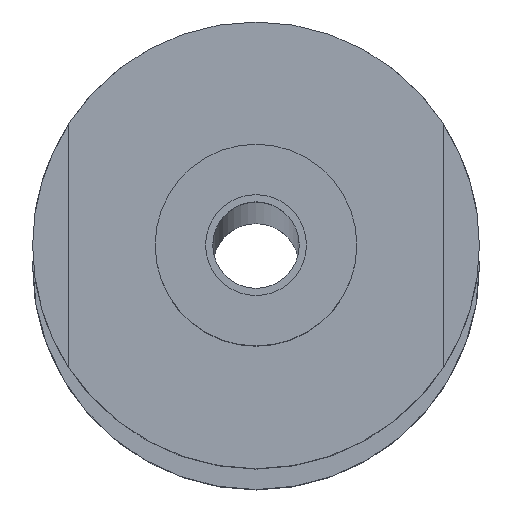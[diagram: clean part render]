
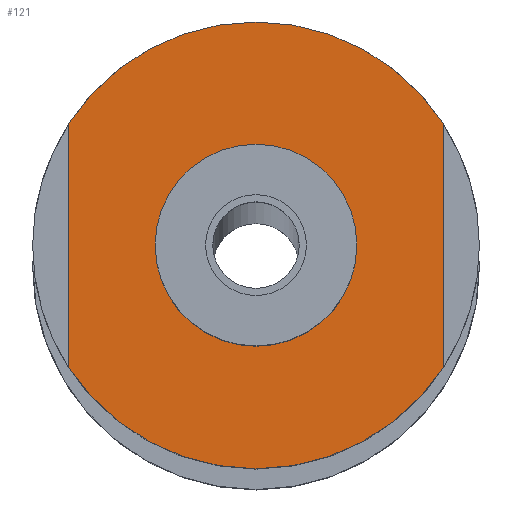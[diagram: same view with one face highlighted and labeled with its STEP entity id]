
A CAD part, top view. The second image highlights one B-rep face of the part: STEP entity #121.
In plain terms, the highlighted planar face has unit normal (0, 0, 1).
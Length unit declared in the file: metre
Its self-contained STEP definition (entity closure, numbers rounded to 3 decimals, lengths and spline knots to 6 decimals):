
#121=ADVANCED_FACE('37:1511',(#238,#239),#240,.T.);
#238=FACE_OUTER_BOUND('',#364,.T.);
#239=FACE_BOUND('',#365,.T.);
#240=PLANE('',#366);
#364=EDGE_LOOP('',(#596,#597,#598,#599,#600,#601));
#365=EDGE_LOOP('',(#602,#603));
#366=AXIS2_PLACEMENT_3D('',#604,#605,#606);
#596=ORIENTED_EDGE('',*,*,#761,.F.);
#597=ORIENTED_EDGE('',*,*,#760,.F.);
#598=ORIENTED_EDGE('',*,*,#756,.F.);
#599=ORIENTED_EDGE('',*,*,#688,.F.);
#600=ORIENTED_EDGE('',*,*,#687,.F.);
#601=ORIENTED_EDGE('',*,*,#751,.T.);
#602=ORIENTED_EDGE('',*,*,#748,.F.);
#603=ORIENTED_EDGE('',*,*,#695,.F.);
#604=CARTESIAN_POINT('',(0.0,0.0,3.205));
#605=DIRECTION('',(0.0,0.0,1.0));
#606=DIRECTION('',(1.0,0.0,0.0));
#687=EDGE_CURVE('37:1561',#812,#814,#815,.F.);
#688=EDGE_CURVE('37:1552',#814,#816,#817,.F.);
#695=EDGE_CURVE('',#827,#823,#829,.T.);
#748=EDGE_CURVE('37:1539',#823,#827,#906,.T.);
#751=EDGE_CURVE('37:3142',#812,#909,#910,.T.);
#756=EDGE_CURVE('37:2641',#816,#917,#918,.F.);
#760=EDGE_CURVE('37:1558',#917,#922,#923,.F.);
#761=EDGE_CURVE('37:1549',#922,#909,#924,.F.);
#812=VERTEX_POINT('',#1001);
#814=VERTEX_POINT('',#1004);
#815=CIRCLE('',#1005,0.0155);
#816=VERTEX_POINT('',#1006);
#817=CIRCLE('',#1007,0.0155);
#823=VERTEX_POINT('',#1014);
#827=VERTEX_POINT('',#1019);
#829=CIRCLE('',#1022,0.007);
#906=CIRCLE('',#1115,0.007);
#909=VERTEX_POINT('',#1118);
#910=LINE('',#1119,#1120);
#917=VERTEX_POINT('',#1130);
#918=LINE('',#1131,#1132);
#922=VERTEX_POINT('',#1137);
#923=CIRCLE('',#1138,0.0155);
#924=CIRCLE('',#1139,0.0155);
#1001=CARTESIAN_POINT('',(-0.013092,0.008536,3.205));
#1004=CARTESIAN_POINT('',(-0.000092,0.015595,3.205));
#1005=AXIS2_PLACEMENT_3D('',#1221,#1222,#1223);
#1006=CARTESIAN_POINT('',(0.012908,0.008536,3.205));
#1007=AXIS2_PLACEMENT_3D('',#1224,#1225,#1226);
#1014=CARTESIAN_POINT('',(-0.007092,0.000095,3.205));
#1019=CARTESIAN_POINT('',(0.006908,0.000095,3.205));
#1022=AXIS2_PLACEMENT_3D('',#1236,#1237,#1238);
#1115=AXIS2_PLACEMENT_3D('',#1315,#1316,#1317);
#1118=CARTESIAN_POINT('',(-0.013092,-0.008346,3.205));
#1119=CARTESIAN_POINT('',(-0.013092,0.000048,3.205));
#1120=VECTOR('',#1321,1.0);
#1130=CARTESIAN_POINT('',(0.012908,-0.008346,3.205));
#1131=CARTESIAN_POINT('',(0.012908,0.000048,3.205));
#1132=VECTOR('',#1325,1.0);
#1137=CARTESIAN_POINT('',(-0.000092,-0.015405,3.205));
#1138=AXIS2_PLACEMENT_3D('',#1330,#1331,#1332);
#1139=AXIS2_PLACEMENT_3D('',#1333,#1334,#1335);
#1221=CARTESIAN_POINT('',(-0.000092,0.000095,3.205));
#1222=DIRECTION('',(0.0,0.0,1.0));
#1223=DIRECTION('',(1.0,0.0,0.0));
#1224=CARTESIAN_POINT('',(-0.000092,0.000095,3.205));
#1225=DIRECTION('',(0.0,0.0,1.0));
#1226=DIRECTION('',(1.0,0.0,0.0));
#1236=CARTESIAN_POINT('',(-0.000092,0.000095,3.205));
#1237=DIRECTION('',(0.0,0.0,1.0));
#1238=DIRECTION('',(1.0,0.0,-0.0));
#1315=CARTESIAN_POINT('',(-0.000092,0.000095,3.205));
#1316=DIRECTION('',(0.0,0.0,1.0));
#1317=DIRECTION('',(1.0,0.0,-0.0));
#1321=DIRECTION('',(0.,-1.0,0.0));
#1325=DIRECTION('',(0.,1.0,0.0));
#1330=CARTESIAN_POINT('',(-0.000092,0.000095,3.205));
#1331=DIRECTION('',(0.0,0.0,1.0));
#1332=DIRECTION('',(1.0,0.0,0.0));
#1333=CARTESIAN_POINT('',(-0.000092,0.000095,3.205));
#1334=DIRECTION('',(0.0,0.0,1.0));
#1335=DIRECTION('',(1.0,0.0,0.0));
